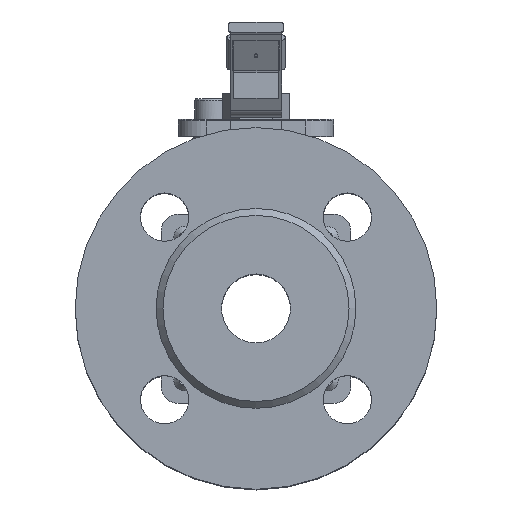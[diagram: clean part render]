
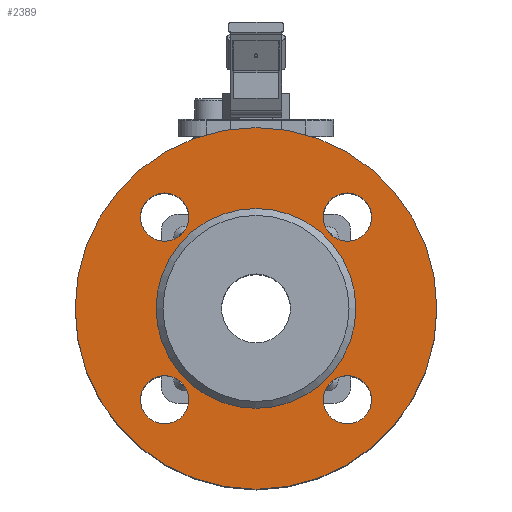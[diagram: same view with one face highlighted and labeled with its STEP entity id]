
A CAD part, top view. The second image highlights one B-rep face of the part: STEP entity #2389.
In plain terms, the highlighted planar face has unit normal (0, 0, 1).
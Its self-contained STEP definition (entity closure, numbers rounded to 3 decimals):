
#2389=ADVANCED_FACE('',(#7354,#7356,#7358,#7360,#7362,#7364),#7366,.T.);
#7354=FACE_BOUND('',#7355,.T.);
#7355=EDGE_LOOP('',(#13518));
#7356=FACE_BOUND('',#7357,.T.);
#7357=EDGE_LOOP('',(#13519));
#7358=FACE_BOUND('',#7359,.T.);
#7359=EDGE_LOOP('',(#13520));
#7360=FACE_BOUND('',#7361,.T.);
#7361=EDGE_LOOP('',(#13521));
#7362=FACE_BOUND('',#7363,.T.);
#7363=EDGE_LOOP('',(#13522));
#7364=FACE_BOUND('',#7365,.T.);
#7365=EDGE_LOOP('',(#13523));
#7366=PLANE('',#7367);
#7367=AXIS2_PLACEMENT_3D('',#7368,#7369,#7370);
#7368=CARTESIAN_POINT('',(0.,0.,46.139));
#7369=DIRECTION('',(0.,0.,1.));
#7370=DIRECTION('',(0.,1.,0.));
#13518=ORIENTED_EDGE('',*,*,#16267,.F.);
#13519=ORIENTED_EDGE('',*,*,#16268,.T.);
#13520=ORIENTED_EDGE('',*,*,#16269,.T.);
#13521=ORIENTED_EDGE('',*,*,#16270,.T.);
#13522=ORIENTED_EDGE('',*,*,#16043,.T.);
#13523=ORIENTED_EDGE('',*,*,#16271,.T.);
#16043=EDGE_CURVE('',#18216,#18216,#18217,.T.);
#16267=EDGE_CURVE('',#18580,#18580,#18581,.T.);
#16268=EDGE_CURVE('',#18582,#18582,#18583,.F.);
#16269=EDGE_CURVE('',#18584,#18584,#18585,.F.);
#16270=EDGE_CURVE('',#18586,#18586,#18587,.F.);
#16271=EDGE_CURVE('',#18588,#18588,#18589,.F.);
#18216=VERTEX_POINT('',#24502);
#18217=CIRCLE('',#24503,29.);
#18580=VERTEX_POINT('',#27355);
#18581=CIRCLE('',#27356,52.5);
#18582=VERTEX_POINT('',#27360);
#18583=CIRCLE('',#27361,7.);
#18584=VERTEX_POINT('',#27365);
#18585=CIRCLE('',#27366,7.);
#18586=VERTEX_POINT('',#27370);
#18587=CIRCLE('',#27371,7.);
#18588=VERTEX_POINT('',#27375);
#18589=CIRCLE('',#27376,7.);
#24502=CARTESIAN_POINT('',(0.,29.,46.139));
#24503=AXIS2_PLACEMENT_3D('',#24504,#24505,#24506);
#24504=CARTESIAN_POINT('',(0.,0.,46.139));
#24505=DIRECTION('',(0.,0.,-1.));
#24506=DIRECTION('',(0.,1.,0.));
#27355=CARTESIAN_POINT('',(0.,52.5,46.139));
#27356=AXIS2_PLACEMENT_3D('',#27357,#27358,#27359);
#27357=CARTESIAN_POINT('',(0.,0.,46.139));
#27358=DIRECTION('',(0.,0.,-1.));
#27359=DIRECTION('',(0.,1.,0.));
#27360=CARTESIAN_POINT('',(26.517,-33.517,46.139));
#27361=AXIS2_PLACEMENT_3D('',#27362,#27363,#27364);
#27362=CARTESIAN_POINT('',(26.517,-26.517,46.139));
#27363=DIRECTION('',(0.,0.,1.));
#27364=DIRECTION('',(0.,-1.,0.));
#27365=CARTESIAN_POINT('',(-33.517,-26.517,46.139));
#27366=AXIS2_PLACEMENT_3D('',#27367,#27368,#27369);
#27367=CARTESIAN_POINT('',(-26.517,-26.517,46.139));
#27368=DIRECTION('',(0.,0.,1.));
#27369=DIRECTION('',(-1.,0.,0.));
#27370=CARTESIAN_POINT('',(-26.517,33.517,46.139));
#27371=AXIS2_PLACEMENT_3D('',#27372,#27373,#27374);
#27372=CARTESIAN_POINT('',(-26.517,26.517,46.139));
#27373=DIRECTION('',(0.,0.,1.));
#27374=DIRECTION('',(0.,1.,0.));
#27375=CARTESIAN_POINT('',(33.517,26.517,46.139));
#27376=AXIS2_PLACEMENT_3D('',#27377,#27378,#27379);
#27377=CARTESIAN_POINT('',(26.517,26.517,46.139));
#27378=DIRECTION('',(0.,0.,1.));
#27379=DIRECTION('',(1.,0.,0.));
